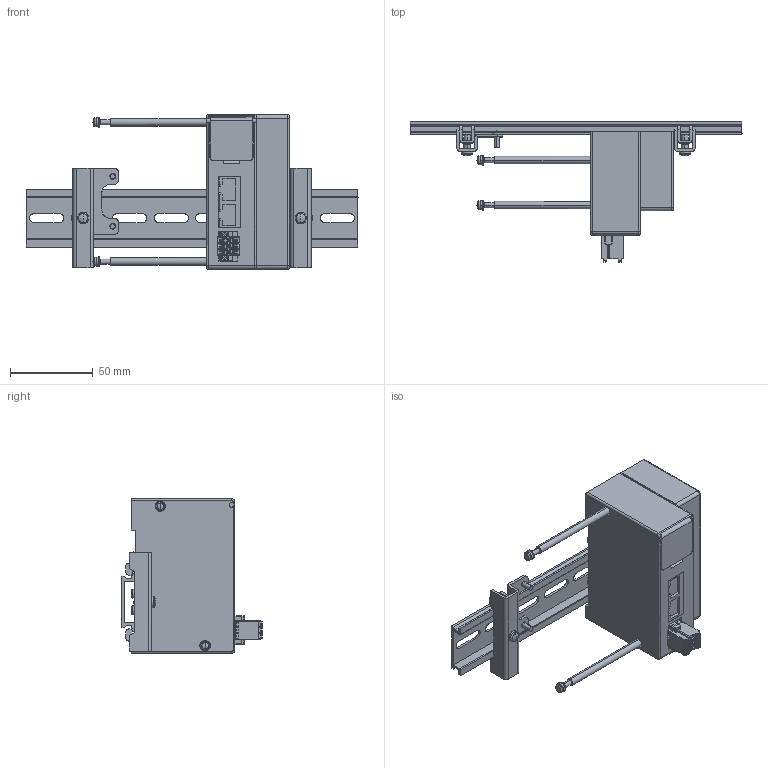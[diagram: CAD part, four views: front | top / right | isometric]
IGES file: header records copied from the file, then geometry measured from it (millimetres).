
Start section: ------------------------------------------------------------------------
Bounding box: 200 x 84.4 x 93 mm (x, y, z)
Volume: 279999.2 mm3; surface area: 65884.9 mm2
Topology: 4 solids, 4 shells, 1023 faces, 2691 edges, 1729 vertices
Faces by surface type: bspline 1023
